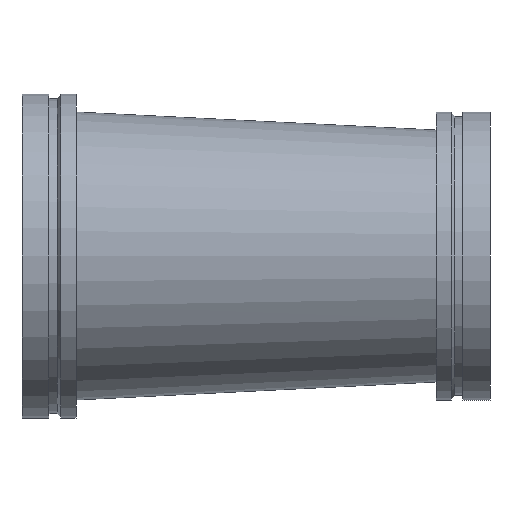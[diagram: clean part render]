
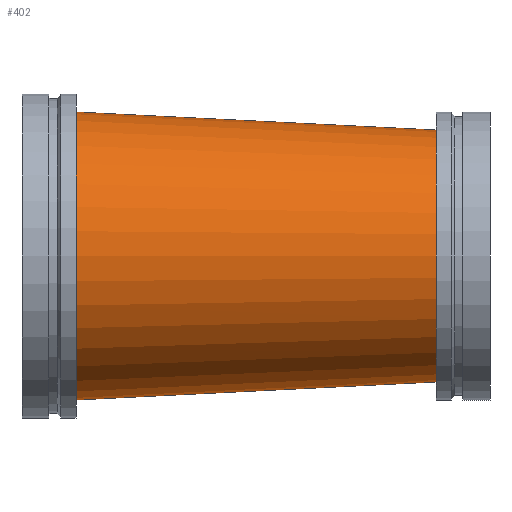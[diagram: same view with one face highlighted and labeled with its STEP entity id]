
A CAD part, front view. The second image highlights one B-rep face of the part: STEP entity #402.
In plain terms, the highlighted free-form (B-spline) face has degree [1, 2] with [2, 9] control points.
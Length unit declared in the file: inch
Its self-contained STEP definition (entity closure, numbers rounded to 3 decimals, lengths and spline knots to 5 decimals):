
#46=B_SPLINE_CURVE_WITH_KNOTS('',1,(#777,#778),.UNSPECIFIED.,.F.,.F.,(2,
2),(-2.50634,-0.00012),.UNSPECIFIED.);
#48=(
BOUNDED_SURFACE()
B_SPLINE_SURFACE(1,2,((#759,#760,#761,#762,#763,#764,#765,#766,#767),(#768,
#769,#770,#771,#772,#773,#774,#775,#776)),.UNSPECIFIED.,.F.,.T.,.F.)
B_SPLINE_SURFACE_WITH_KNOTS((2,2),(3,2,2,2,3),(-0.04988,2.54988),
(-3.14159,-1.5708,0.,1.5708,3.14159),
 .UNSPECIFIED.)
GEOMETRIC_REPRESENTATION_ITEM()
RATIONAL_B_SPLINE_SURFACE(((1.,0.707,1.,0.707,1.,
0.707,1.,0.707,1.),(1.,0.707,1.,0.707,
1.,0.707,1.,0.707,1.)))
REPRESENTATION_ITEM('')
SURFACE()
);
#98=FACE_OUTER_BOUND('',#120,.T.);
#120=EDGE_LOOP('',(#333,#334,#335,#336,#337,#338));
#129=CIRCLE('',#430,7.);
#130=CIRCLE('',#431,7.);
#153=CIRCLE('',#465,8.);
#154=CIRCLE('',#466,8.);
#169=VERTEX_POINT('',#652);
#170=VERTEX_POINT('',#653);
#193=VERTEX_POINT('',#719);
#194=VERTEX_POINT('',#720);
#209=EDGE_CURVE('',#169,#170,#129,.T.);
#210=EDGE_CURVE('',#170,#169,#130,.T.);
#241=EDGE_CURVE('',#193,#194,#153,.T.);
#242=EDGE_CURVE('',#194,#193,#154,.T.);
#252=EDGE_CURVE('',#170,#194,#46,.T.);
#333=ORIENTED_EDGE('',*,*,#209,.T.);
#334=ORIENTED_EDGE('',*,*,#252,.T.);
#335=ORIENTED_EDGE('',*,*,#242,.T.);
#336=ORIENTED_EDGE('',*,*,#241,.T.);
#337=ORIENTED_EDGE('',*,*,#252,.F.);
#338=ORIENTED_EDGE('',*,*,#210,.T.);
#402=ADVANCED_FACE('',(#98),#48,.F.);
#430=AXIS2_PLACEMENT_3D('',#654,#504,#505);
#431=AXIS2_PLACEMENT_3D('',#655,#506,#507);
#465=AXIS2_PLACEMENT_3D('',#721,#582,#583);
#466=AXIS2_PLACEMENT_3D('',#722,#584,#585);
#504=DIRECTION('center_axis',(-1.,0.,0.));
#505=DIRECTION('ref_axis',(0.,-1.,0.));
#506=DIRECTION('center_axis',(-1.,0.,0.));
#507=DIRECTION('ref_axis',(0.,-1.,0.));
#582=DIRECTION('center_axis',(1.,0.,0.));
#583=DIRECTION('ref_axis',(0.,1.,0.));
#584=DIRECTION('center_axis',(1.,0.,0.));
#585=DIRECTION('ref_axis',(0.,1.,0.));
#652=CARTESIAN_POINT('',(23.,-8.,0.));
#653=CARTESIAN_POINT('',(23.,-1.01741,6.99998));
#654=CARTESIAN_POINT('Origin',(23.,-1.,0.));
#655=CARTESIAN_POINT('Origin',(23.,-1.,0.));
#719=CARTESIAN_POINT('',(3.,8.,0.));
#720=CARTESIAN_POINT('',(3.,-0.0199,7.99998));
#721=CARTESIAN_POINT('Origin',(3.,0.,0.));
#722=CARTESIAN_POINT('Origin',(3.,0.,0.));
#759=CARTESIAN_POINT('Ctrl Pts',(2.601,0.,
8.01993));
#760=CARTESIAN_POINT('Ctrl Pts',(2.20199,-8.,8.01993));
#761=CARTESIAN_POINT('Ctrl Pts',(2.20199,-8.,0.));
#762=CARTESIAN_POINT('Ctrl Pts',(2.20199,-8.,-8.01993));
#763=CARTESIAN_POINT('Ctrl Pts',(2.601,0.,
-8.01993));
#764=CARTESIAN_POINT('Ctrl Pts',(3.,8.,-8.01993));
#765=CARTESIAN_POINT('Ctrl Pts',(3.,8.,0.));
#766=CARTESIAN_POINT('Ctrl Pts',(3.,8.,8.01993));
#767=CARTESIAN_POINT('Ctrl Pts',(2.601,0.,
8.01993));
#768=CARTESIAN_POINT('Ctrl Pts',(23.3474,-1.03474,6.98261));
#769=CARTESIAN_POINT('Ctrl Pts',(23.,-8.,6.98261));
#770=CARTESIAN_POINT('Ctrl Pts',(23.,-8.,0.));
#771=CARTESIAN_POINT('Ctrl Pts',(23.,-8.,-6.98261));
#772=CARTESIAN_POINT('Ctrl Pts',(23.3474,-1.03474,-6.98261));
#773=CARTESIAN_POINT('Ctrl Pts',(23.69479,5.93052,-6.98261));
#774=CARTESIAN_POINT('Ctrl Pts',(23.69479,5.93052,0.));
#775=CARTESIAN_POINT('Ctrl Pts',(23.69479,5.93052,6.98261));
#776=CARTESIAN_POINT('Ctrl Pts',(23.3474,-1.03474,6.98261));
#777=CARTESIAN_POINT('Ctrl Pts',(23.,-1.01741,6.99998));
#778=CARTESIAN_POINT('Ctrl Pts',(3.,-0.0199,7.99998));
